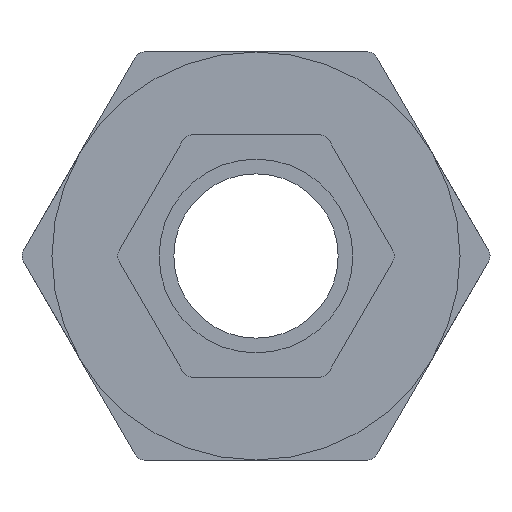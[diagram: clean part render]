
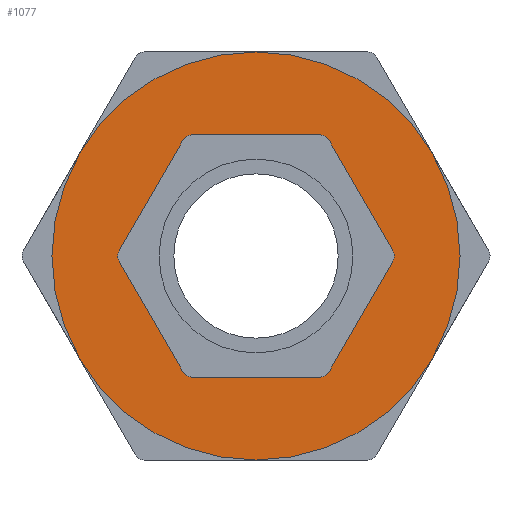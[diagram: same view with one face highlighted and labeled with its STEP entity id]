
A CAD part, left-side view. The second image highlights one B-rep face of the part: STEP entity #1077.
In plain terms, the highlighted planar face has unit normal (-1, 0, 0).
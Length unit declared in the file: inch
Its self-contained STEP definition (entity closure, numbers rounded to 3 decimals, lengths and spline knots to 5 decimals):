
#14=FACE_BOUND('',#184,.T.);
#62=CIRCLE('',#1176,2.);
#63=CIRCLE('',#1177,1.1875);
#124=FACE_OUTER_BOUND('',#183,.T.);
#183=EDGE_LOOP('',(#738));
#184=EDGE_LOOP('',(#739));
#439=VERTEX_POINT('',#1695);
#440=VERTEX_POINT('',#1697);
#556=EDGE_CURVE('',#439,#439,#62,.T.);
#557=EDGE_CURVE('',#440,#440,#63,.T.);
#738=ORIENTED_EDGE('',*,*,#556,.T.);
#739=ORIENTED_EDGE('',*,*,#557,.F.);
#975=PLANE('',#1175);
#1077=ADVANCED_FACE('',(#124,#14),#975,.T.);
#1175=AXIS2_PLACEMENT_3D('',#1694,#1366,#1367);
#1176=AXIS2_PLACEMENT_3D('',#1696,#1368,#1369);
#1177=AXIS2_PLACEMENT_3D('',#1698,#1370,#1371);
#1366=DIRECTION('center_axis',(-1.,0.,0.));
#1367=DIRECTION('ref_axis',(0.,0.,1.));
#1368=DIRECTION('center_axis',(-1.,0.,0.));
#1369=DIRECTION('ref_axis',(0.,0.,-1.));
#1370=DIRECTION('center_axis',(-1.,0.,0.));
#1371=DIRECTION('ref_axis',(0.,1.,0.));
#1694=CARTESIAN_POINT('Origin',(1.375,0.,0.));
#1695=CARTESIAN_POINT('',(1.375,0.,2.));
#1696=CARTESIAN_POINT('Origin',(1.375,0.,0.));
#1697=CARTESIAN_POINT('',(1.375,-1.1875,0.));
#1698=CARTESIAN_POINT('Origin',(1.375,0.,0.));
